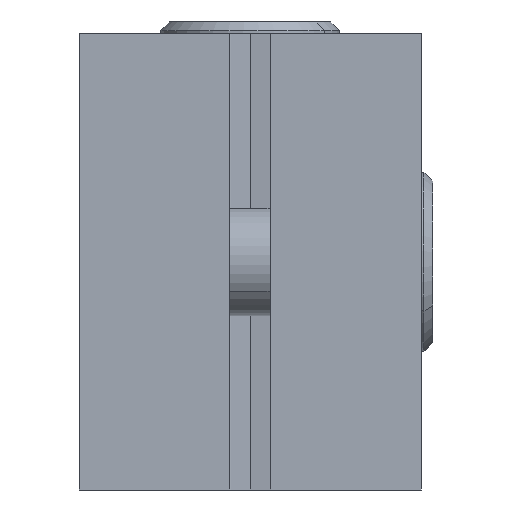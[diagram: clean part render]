
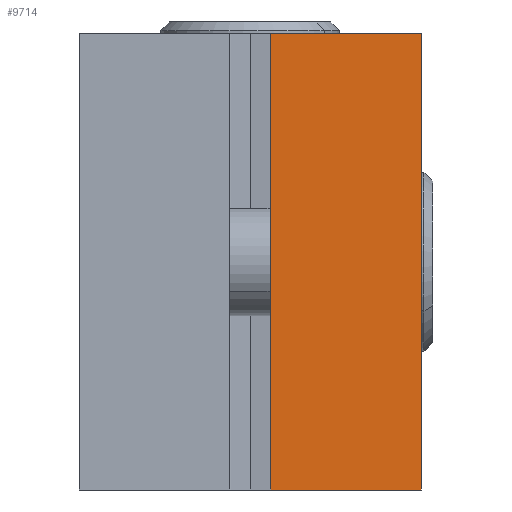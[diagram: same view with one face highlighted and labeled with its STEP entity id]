
A CAD part, left-side view. The second image highlights one B-rep face of the part: STEP entity #9714.
In plain terms, the highlighted planar face has unit normal (-1, 0, 0).
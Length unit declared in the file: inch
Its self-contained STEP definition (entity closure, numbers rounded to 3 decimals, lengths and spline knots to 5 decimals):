
#78 = CARTESIAN_POINT ( 'NONE',  ( 0., 0., -1. ) ) ;
#84 = CARTESIAN_POINT ( 'NONE',  ( 0., 0., 0. ) ) ;
#1575 = CARTESIAN_POINT ( 'NONE',  ( 0., 0.75, 0. ) ) ;
#1576 = DIRECTION ( 'NONE',  ( 0., -1., 0. ) ) ;
#1603 = PLANE ( 'NONE',  #2012 ) ;
#1604 = CARTESIAN_POINT ( 'NONE',  ( 0., 0.75, 0. ) ) ;
#1605 = DIRECTION ( 'NONE',  ( 1., 0., 0. ) ) ;
#1606 = DIRECTION ( 'NONE',  ( 0., 0., -1. ) ) ;
#1802 = CARTESIAN_POINT ( 'NONE',  ( 0., 0.33, -1. ) ) ;
#2012 = AXIS2_PLACEMENT_3D ( 'NONE', #1604, #1605, #1606 ) ;
#3448 = CARTESIAN_POINT ( 'NONE',  ( 0., 0.33, 0. ) ) ;
#4860 = EDGE_LOOP ( 'NONE', ( #8024, #8025, #8026, #8027 ) ) ;
#5767 = VERTEX_POINT ( 'NONE', #78 ) ;
#5778 = VERTEX_POINT ( 'NONE', #84 ) ;
#6144 = EDGE_CURVE ( 'NONE', #15899, #9812, #11935, .T. ) ;
#6145 = EDGE_CURVE ( 'NONE', #9812, #5767, #11938, .T. ) ;
#8024 = ORIENTED_EDGE ( 'NONE', *, *, #9710, .F. ) ;
#8025 = ORIENTED_EDGE ( 'NONE', *, *, #6144, .T. ) ;
#8026 = ORIENTED_EDGE ( 'NONE', *, *, #6145, .T. ) ;
#8027 = ORIENTED_EDGE ( 'NONE', *, *, #8118, .T. ) ;
#8118 = EDGE_CURVE ( 'NONE', #5767, #5778, #14221, .T. ) ;
#9710 = EDGE_CURVE ( 'NONE', #15899, #5778, #18525, .T. ) ;
#9714 = ADVANCED_FACE ( 'NONE', ( #18557 ), #1603, .F. ) ;
#9812 = VERTEX_POINT ( 'NONE', #1802 ) ;
#11552 = CARTESIAN_POINT ( 'NONE',  ( 0., 0.33, 0. ) ) ;
#11553 = DIRECTION ( 'NONE',  ( 0., 0., -1. ) ) ;
#11554 = CARTESIAN_POINT ( 'NONE',  ( 0., 0.75, -1. ) ) ;
#11555 = DIRECTION ( 'NONE',  ( 0., -1., 0. ) ) ;
#11935 = LINE ( 'NONE', #11552, #11937 ) ;
#11937 = VECTOR ( 'NONE', #11553, 39.37008 ) ;
#11938 = LINE ( 'NONE', #11554, #11939 ) ;
#11939 = VECTOR ( 'NONE', #11555, 39.37008 ) ;
#14221 = LINE ( 'NONE', #14967, #14222 ) ;
#14222 = VECTOR ( 'NONE', #14968, 39.37008 ) ;
#14967 = CARTESIAN_POINT ( 'NONE',  ( 0., 0., 0. ) ) ;
#14968 = DIRECTION ( 'NONE',  ( 0., 0., 1. ) ) ;
#15899 = VERTEX_POINT ( 'NONE', #3448 ) ;
#18525 = LINE ( 'NONE', #1575, #18526 ) ;
#18526 = VECTOR ( 'NONE', #1576, 39.37008 ) ;
#18557 = FACE_OUTER_BOUND ( 'NONE', #4860, .T. ) ;
